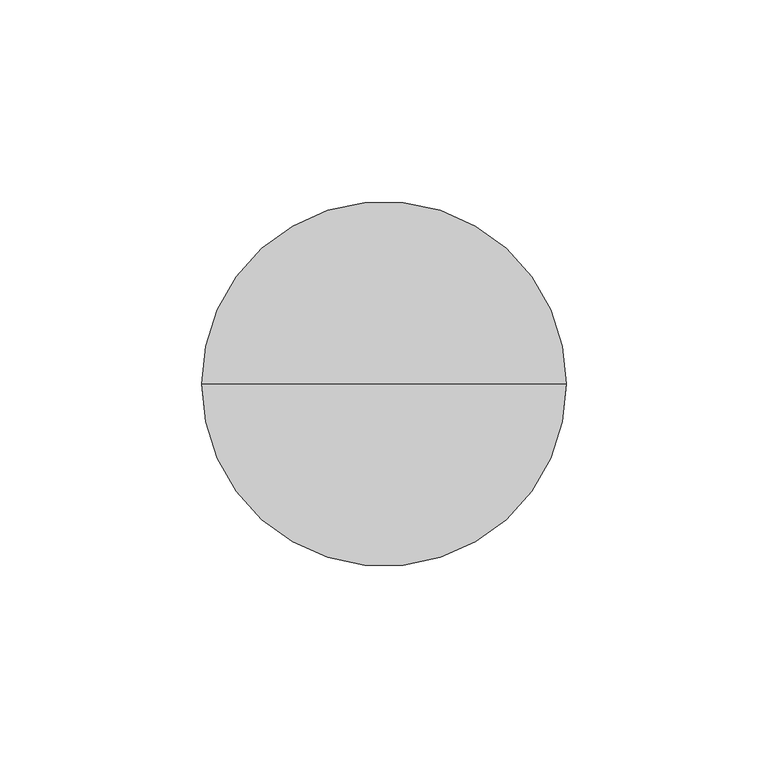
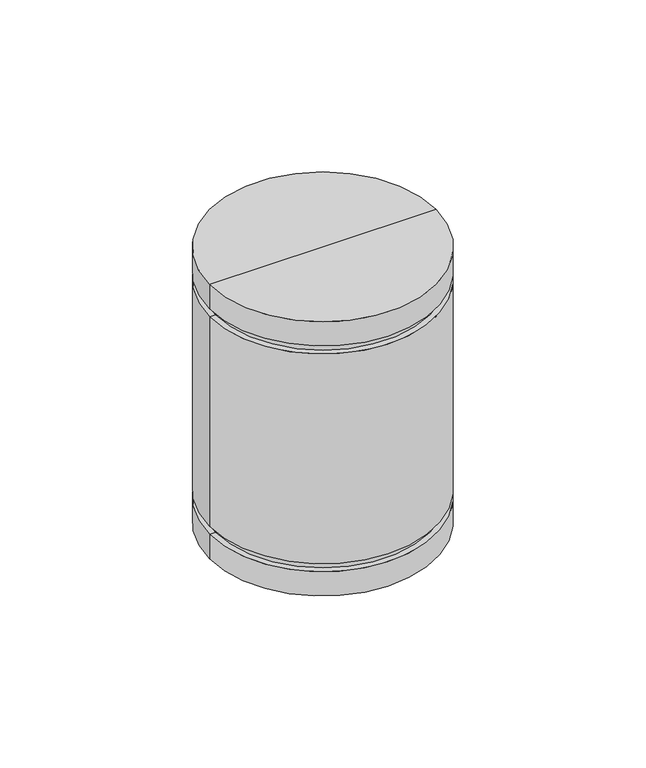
"""IFC4 building model written with IfcOpenShell, lengths in millimetres: light fixture geometry, DL340_ 4 ROUND CEILING DOWNLIGHT_IP65_1000Lm : DL340B-B02-EU-T17-EMAC."""

from ifc_helpers import new_model, si_unit, point, frame, frame_2d, origin, place, context, project, spatial, polyline, circle_curve, trimmed, segment, composite_curve, outline, extrude, source, transform, mapped, element, save
from ifc_brep_helpers import plane_surface, cylinder_surface, revolved_surface, advanced_brep


def light_fixture_00b115bc(model_context):
    return source(origin(), model_context, "Body", "SolidModel", [
        extrude(outline(composite_curve([segment(trimmed(circle_curve(frame_2d((0.0, -33.7992882)), 6.35), [point((-6.35, -33.7992882))], [point((6.35, -33.7992882))], False, "CARTESIAN"), True, "CONTINUOUS"), segment(trimmed(circle_curve(frame_2d((0.0, -33.7992882)), 6.35), [point((6.35, -33.7992882))], [point((-6.35, -33.7992882))], False, "CARTESIAN"), True, "CONTINUOUS")], self_intersect=False)), frame((0.0, 0.0, -68.0221179), z_axis=(0.0, 0.0, 1.0), x_axis=(1.0, 0.0, 0.0)), (0.0, 0.0, 1.0), 9.6578657),
        advanced_brep(
        [(0.0, -33.7992882, -58.3642522), (-15.6825508, -33.7992882, -58.3642522), (15.6825508, -33.7992882, -58.3642522), (16.44639, -33.7992882, -57.15), (-16.44639, -33.7992882, -57.15), (0.0, -33.7992882, -57.15), (38.89375, -33.7992882, -109.5375), (-38.89375, -33.7992882, -109.5375), (37.6096196, -33.7992882, -109.5375), (-37.6096196, -33.7992882, -109.5375)],
        [
            (0, 1),
            (1, 2, circle_curve(frame((0.0, -33.7992882, -58.3642522), z_axis=(0.0, 0.0, -1.0), x_axis=(-1.0, 0.0, 0.0)), 15.6825508)),
            (2, 0),
            (2, 1, circle_curve(frame((0.0, -33.7992882, -58.3642522), z_axis=(0.0, 0.0, -1.0), x_axis=(-1.0, 0.0, 0.0)), 15.6825508)),
            (3, 4, circle_curve(frame((0.0, -33.7992882, -57.15), z_axis=(0.0, 0.0, 1.0), x_axis=(-1.0, 0.0, 0.0)), 16.44639)),
            (4, 5),
            (5, 3),
            (4, 3, circle_curve(frame((0.0, -33.7992882, -57.15), z_axis=(0.0, 0.0, 1.0), x_axis=(-1.0, 0.0, 0.0)), 16.44639)),
            (6, 7, circle_curve(frame((0.0, -33.7992882, -109.5375), z_axis=(0.0, 0.0, 1.0), x_axis=(-1.0, 0.0, 0.0)), 38.89375)),
            (7, 4),
            (3, 6),
            (7, 6, circle_curve(frame((0.0, -33.7992882, -109.5375), z_axis=(0.0, 0.0, 1.0), x_axis=(-1.0, 0.0, 0.0)), 38.89375)),
            (8, 9, circle_curve(frame((0.0, -33.7992882, -109.5375), z_axis=(0.0, 0.0, 1.0), x_axis=(-1.0, 0.0, 0.0)), 37.6096196)),
            (9, 7),
            (6, 8),
            (9, 8, circle_curve(frame((0.0, -33.7992882, -109.5375), z_axis=(0.0, 0.0, 1.0), x_axis=(-1.0, 0.0, 0.0)), 37.6096196)),
            (1, 9),
            (8, 2),
        ],
        [
            plane_surface(frame((0.0, -33.7992882, -58.3642522), z_axis=(0.0, 0.0, -1.0), x_axis=(-1.0, 0.0, 0.0))),
            plane_surface(frame((0.0, -33.7992882, -57.15), z_axis=(0.0, 0.0, 1.0), x_axis=(-1.0, 0.0, 0.0))),
            revolved_surface(polyline([(-16.44639, -33.7992882, -57.15), (-38.89375, -33.7992882, -109.5375)]), (0.0, -33.7992882, -36.4089233), (0.0, 0.0, -1.0)),
            plane_surface(frame((0.0, -33.7992882, -109.5375), z_axis=(0.0, 0.0, -1.0), x_axis=(-1.0, 0.0, 0.0))),
            revolved_surface(polyline([(-37.6096196, -33.7992882, -109.5375), (-15.6825508, -33.7992882, -58.3642522)]), (0.0, -33.7992882, -36.4089233), (0.0, 0.0, -1.0)),
        ],
        [
            (0, [[1, 2, 3]]),
            (0, [[-3, 4, -1]]),
            (1, [[5, 6, 7]]),
            (1, [[8, -7, -6]]),
            (2, [[9, 10, -5, 11]]),
            (2, [[12, -11, -8, -10]]),
            (3, [[13, 14, -9, 15]]),
            (3, [[16, -15, -12, -14]]),
            (4, [[-2, 17, -13, 18]]),
            (4, [[-4, -18, -16, -17]]),
        ],
    ),
        advanced_brep(
        [(45.24375, -33.7992882, -115.8875), (-45.24375, -33.7992882, -115.8875), (-45.24375, -33.7992882, -105.5953048), (45.24375, -33.7992882, -105.5953048), (36.0055958, -33.7992882, -115.8875), (-36.0055958, -33.7992882, -115.8875), (38.89375, -33.7992882, -57.15), (-38.89375, -33.7992882, -57.15), (-38.89375, -33.7992882, -109.5375), (38.89375, -33.7992882, -109.5375), (0.0, -33.7992882, -57.15), (45.24375, -33.7992882, 0.0), (-45.24375, -33.7992882, 0.0), (0.0, -33.7992882, 0.0), (45.24375, -33.7992882, -102.1799228), (-45.24375, -33.7992882, -102.1799228), (-45.24375, -33.7992882, -13.6412632), (45.24375, -33.7992882, -13.6412632), (42.8312774, -33.7992882, -102.1799228), (-42.8312774, -33.7992882, -102.1799228), (42.8312774, -33.7992882, -105.5953048), (-42.8312774, -33.7992882, -105.5953048), (45.24375, -33.7992882, -10.2258811), (-45.24375, -33.7992882, -10.2258811), (42.8312774, -33.7992882, -10.2258811), (-42.8312774, -33.7992882, -10.2258811), (42.8312774, -33.7992882, -13.6412632), (-42.8312774, -33.7992882, -13.6412632), (36.0055958, -33.7992882, -109.5375), (-36.0055958, -33.7992882, -109.5375)],
        [
            (0, 1, circle_curve(frame((0.0, -33.7992882, -115.8875), z_axis=(0.0, 0.0, 1.0), x_axis=(-1.0, 0.0, 0.0)), 45.24375)),
            (1, 2),
            (2, 3, circle_curve(frame((0.0, -33.7992882, -105.5953048), z_axis=(0.0, 0.0, -1.0), x_axis=(-1.0, 0.0, 0.0)), 45.24375)),
            (3, 0),
            (1, 0, circle_curve(frame((0.0, -33.7992882, -115.8875), z_axis=(0.0, 0.0, 1.0), x_axis=(-1.0, 0.0, 0.0)), 45.24375)),
            (3, 2, circle_curve(frame((0.0, -33.7992882, -105.5953048), z_axis=(0.0, 0.0, -1.0), x_axis=(-1.0, 0.0, 0.0)), 45.24375)),
            (4, 5, circle_curve(frame((0.0, -33.7992882, -115.8875), z_axis=(0.0, 0.0, 1.0), x_axis=(-1.0, 0.0, 0.0)), 36.0055958)),
            (5, 1),
            (0, 4),
            (5, 4, circle_curve(frame((0.0, -33.7992882, -115.8875), z_axis=(0.0, 0.0, 1.0), x_axis=(-1.0, 0.0, 0.0)), 36.0055958)),
            (6, 7, circle_curve(frame((0.0, -33.7992882, -57.15), z_axis=(0.0, 0.0, 1.0), x_axis=(-1.0, 0.0, 0.0)), 38.89375)),
            (7, 8),
            (8, 9, circle_curve(frame((0.0, -33.7992882, -109.5375), z_axis=(0.0, 0.0, -1.0), x_axis=(-1.0, 0.0, 0.0)), 38.89375)),
            (9, 6),
            (7, 6, circle_curve(frame((0.0, -33.7992882, -57.15), z_axis=(0.0, 0.0, 1.0), x_axis=(-1.0, 0.0, 0.0)), 38.89375)),
            (9, 8, circle_curve(frame((0.0, -33.7992882, -109.5375), z_axis=(0.0, 0.0, -1.0), x_axis=(-1.0, 0.0, 0.0)), 38.89375)),
            (10, 7),
            (6, 10),
            (11, 12, circle_curve(frame((0.0, -33.7992882, 0.0), z_axis=(0.0, 0.0, 1.0), x_axis=(-1.0, 0.0, 0.0)), 45.24375)),
            (12, 13),
            (13, 11),
            (12, 11, circle_curve(frame((0.0, -33.7992882, 0.0), z_axis=(0.0, 0.0, 1.0), x_axis=(-1.0, 0.0, 0.0)), 45.24375)),
            (14, 15, circle_curve(frame((0.0, -33.7992882, -102.1799228), z_axis=(0.0, 0.0, 1.0), x_axis=(-1.0, 0.0, 0.0)), 45.24375)),
            (15, 16),
            (16, 17, circle_curve(frame((0.0, -33.7992882, -13.6412632), z_axis=(0.0, 0.0, -1.0), x_axis=(-1.0, 0.0, 0.0)), 45.24375)),
            (17, 14),
            (15, 14, circle_curve(frame((0.0, -33.7992882, -102.1799228), z_axis=(0.0, 0.0, 1.0), x_axis=(-1.0, 0.0, 0.0)), 45.24375)),
            (17, 16, circle_curve(frame((0.0, -33.7992882, -13.6412632), z_axis=(0.0, 0.0, -1.0), x_axis=(-1.0, 0.0, 0.0)), 45.24375)),
            (18, 19, circle_curve(frame((0.0, -33.7992882, -102.1799228), z_axis=(0.0, 0.0, 1.0), x_axis=(-1.0, 0.0, 0.0)), 42.8312774)),
            (19, 15),
            (14, 18),
            (19, 18, circle_curve(frame((0.0, -33.7992882, -102.1799228), z_axis=(0.0, 0.0, 1.0), x_axis=(-1.0, 0.0, 0.0)), 42.8312774)),
            (20, 21, circle_curve(frame((0.0, -33.7992882, -105.5953048), z_axis=(0.0, 0.0, 1.0), x_axis=(-1.0, 0.0, 0.0)), 42.8312774)),
            (21, 19),
            (18, 20),
            (21, 20, circle_curve(frame((0.0, -33.7992882, -105.5953048), z_axis=(0.0, 0.0, 1.0), x_axis=(-1.0, 0.0, 0.0)), 42.8312774)),
            (2, 21),
            (20, 3),
            (22, 23, circle_curve(frame((0.0, -33.7992882, -10.2258811), z_axis=(0.0, 0.0, 1.0), x_axis=(-1.0, 0.0, 0.0)), 45.24375)),
            (23, 12),
            (11, 22),
            (23, 22, circle_curve(frame((0.0, -33.7992882, -10.2258811), z_axis=(0.0, 0.0, 1.0), x_axis=(-1.0, 0.0, 0.0)), 45.24375)),
            (24, 25, circle_curve(frame((0.0, -33.7992882, -10.2258811), z_axis=(0.0, 0.0, 1.0), x_axis=(-1.0, 0.0, 0.0)), 42.8312774)),
            (25, 23),
            (22, 24),
            (25, 24, circle_curve(frame((0.0, -33.7992882, -10.2258811), z_axis=(0.0, 0.0, 1.0), x_axis=(-1.0, 0.0, 0.0)), 42.8312774)),
            (26, 27, circle_curve(frame((0.0, -33.7992882, -13.6412632), z_axis=(0.0, 0.0, 1.0), x_axis=(-1.0, 0.0, 0.0)), 42.8312774)),
            (27, 25),
            (24, 26),
            (27, 26, circle_curve(frame((0.0, -33.7992882, -13.6412632), z_axis=(0.0, 0.0, 1.0), x_axis=(-1.0, 0.0, 0.0)), 42.8312774)),
            (16, 27),
            (26, 17),
            (28, 29, circle_curve(frame((0.0, -33.7992882, -109.5375), z_axis=(0.0, 0.0, 1.0), x_axis=(-1.0, 0.0, 0.0)), 36.0055958)),
            (29, 5),
            (4, 28),
            (29, 28, circle_curve(frame((0.0, -33.7992882, -109.5375), z_axis=(0.0, 0.0, 1.0), x_axis=(-1.0, 0.0, 0.0)), 36.0055958)),
            (8, 29),
            (28, 9),
        ],
        [
            cylinder_surface(frame((0.0, -33.7992882, 19.05), z_axis=(0.0, 0.0, -1.0), x_axis=(-1.0, 0.0, 0.0)), 45.24375),
            plane_surface(frame((0.0, -33.7992882, -115.8875), z_axis=(0.0, 0.0, -1.0), x_axis=(-1.0, 0.0, 0.0))),
            revolved_surface(polyline([(-38.89375, -33.7992882, -109.53750000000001), (-38.89375, -33.7992882, -57.150000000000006)]), (0.0, -33.7992882, 19.05), (0.0, 0.0, -1.0)),
            plane_surface(frame((0.0, -33.7992882, -57.15), z_axis=(0.0, 0.0, -1.0), x_axis=(-1.0, 0.0, 0.0))),
            plane_surface(frame((0.0, -33.7992882, 0.0), z_axis=(0.0, 0.0, 1.0), x_axis=(-1.0, 0.0, 0.0))),
            plane_surface(frame((0.0, -33.7992882, -102.1799228), z_axis=(0.0, 0.0, -1.0), x_axis=(-1.0, 0.0, 0.0))),
            cylinder_surface(frame((0.0, -33.7992882, 19.05), z_axis=(0.0, 0.0, -1.0), x_axis=(-1.0, 0.0, 0.0)), 42.8312774),
            plane_surface(frame((0.0, -33.7992882, -105.5953048), z_axis=(0.0, 0.0, 1.0), x_axis=(-1.0, 0.0, 0.0))),
            plane_surface(frame((0.0, -33.7992882, -10.2258811), z_axis=(0.0, 0.0, -1.0), x_axis=(-1.0, 0.0, 0.0))),
            plane_surface(frame((0.0, -33.7992882, -13.6412632), z_axis=(0.0, 0.0, 1.0), x_axis=(-1.0, 0.0, 0.0))),
            revolved_surface(polyline([(-36.0055958, -33.7992882, -115.8875), (-36.0055958, -33.7992882, -109.53750000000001)]), (0.0, -33.7992882, 19.05), (0.0, 0.0, -1.0)),
            plane_surface(frame((0.0, -33.7992882, -109.5375), z_axis=(0.0, 0.0, 1.0), x_axis=(-1.0, 0.0, 0.0))),
        ],
        [
            (0, [[1, 2, 3, 4]]),
            (0, [[5, -4, 6, -2]]),
            (1, [[7, 8, -1, 9]]),
            (1, [[10, -9, -5, -8]]),
            (2, [[11, 12, 13, 14]]),
            (2, [[15, -14, 16, -12]]),
            (3, [[17, -11, 18]]),
            (3, [[-18, -15, -17]]),
            (4, [[19, 20, 21]]),
            (4, [[22, -21, -20]]),
            (0, [[23, 24, 25, 26]]),
            (0, [[27, -26, 28, -24]]),
            (5, [[29, 30, -23, 31]]),
            (5, [[32, -31, -27, -30]]),
            (6, [[33, 34, -29, 35]]),
            (6, [[36, -35, -32, -34]]),
            (7, [[-3, 37, -33, 38]]),
            (7, [[-6, -38, -36, -37]]),
            (0, [[39, 40, -19, 41]]),
            (0, [[42, -41, -22, -40]]),
            (8, [[43, 44, -39, 45]]),
            (8, [[46, -45, -42, -44]]),
            (6, [[47, 48, -43, 49]]),
            (6, [[50, -49, -46, -48]]),
            (9, [[-25, 51, -47, 52]]),
            (9, [[-28, -52, -50, -51]]),
            (10, [[53, 54, -7, 55]]),
            (10, [[56, -55, -10, -54]]),
            (11, [[-13, 57, -53, 58]]),
            (11, [[-16, -58, -56, -57]]),
        ],
    ),
    ])


if __name__ == "__main__":
    model = new_model("IFC4")
    model_context = context("Model", 3, world=origin())
    ifc_project = project(units=[si_unit("LENGTHUNIT", "METRE", prefix="MILLI")], contexts=[model_context])
    site = spatial("IfcSite", under=ifc_project)
    building = spatial("IfcBuilding", under=site)
    placement = place(None, origin())
    light_fixture_shape = light_fixture_00b115bc(model_context)
    element("IfcLightFixture", 1, ObjectType="DL340_ 4 ROUND CEILING DOWNLIGHT_IP65_1000Lm : DL340B-B02-EU-T17-EMAC", at=placement, inside=building, context=model_context, shape_type="MappedRepresentation", body=[
        mapped(light_fixture_shape, transform((0.0, 0.0, 0.0), x_axis=(1.0, 0.0, 0.0), y_axis=(0.0, 1.0, 0.0), z_axis=(0.0, 0.0, 1.0))),
    ])
    save(model, "model.ifc")
